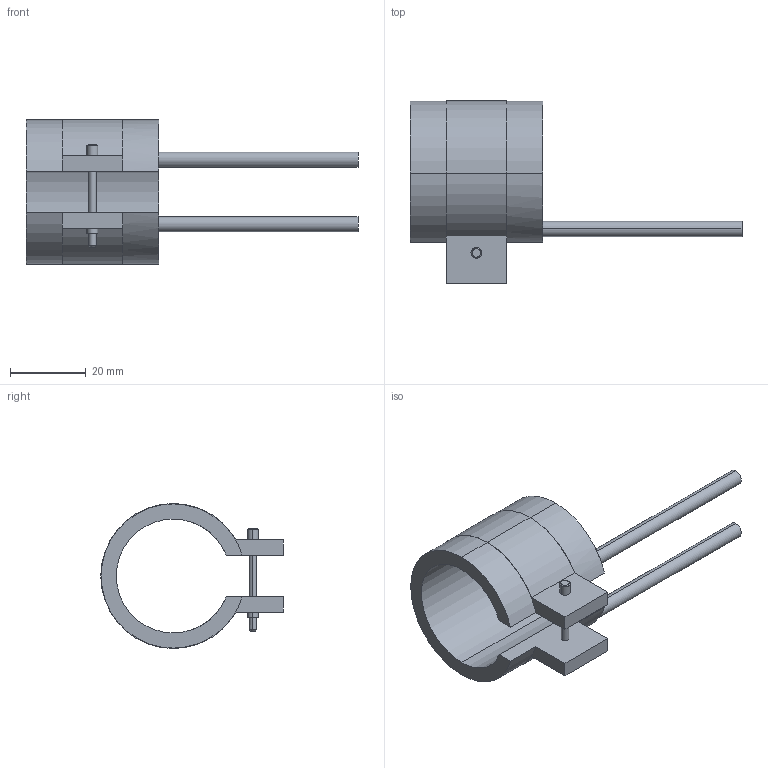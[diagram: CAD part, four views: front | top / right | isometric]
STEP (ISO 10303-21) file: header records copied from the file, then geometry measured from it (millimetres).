
FILE_DESCRIPTION(('CATIA V5 STEP Exchange'),'2;1');
FILE_NAME('C:\Users\Utente\Desktop\IO LAVORO\3D X SITO CF\X SITO\PLASTICA\RF2\14030035.stp','2021-03-31T11:40:15+00:00',('none'),('none'),'CATIA Version 5 Release 20 GA (IN-10)','CATIA V5 STEP AP203','none');
FILE_SCHEMA(('CONFIG_CONTROL_DESIGN'));
Length unit declared in the file: millimetre
Products named in the file (1): 14030035
Bounding box: 87.5 x 48.1 x 38.2 mm (x, y, z)
Volume: 16421.6 mm3; surface area: 10142.6 mm2
Topology: 1 solids, 1 shells, 45 faces, 116 edges, 76 vertices
Faces by surface type: cylinder 24, plane 17, cone 4
Entity records: 1412 total; most frequent: CARTESIAN_POINT 288, ORIENTED_EDGE 232, DIRECTION 195, EDGE_CURVE 116, AXIS2_PLACEMENT_3D 103, VERTEX_POINT 76, CIRCLE 61, VECTOR 52
